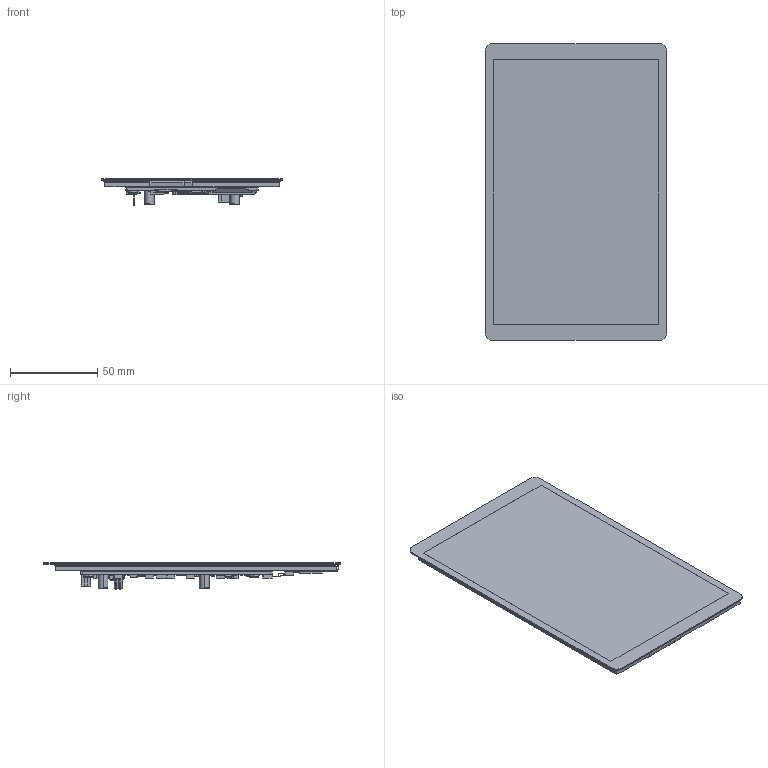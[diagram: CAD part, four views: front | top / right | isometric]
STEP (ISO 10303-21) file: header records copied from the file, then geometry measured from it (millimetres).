
FILE_DESCRIPTION((''),'2;1');
FILE_NAME('7INCH-DSI-LCD-E_ASM','2025-04-28T10:01:42',('xiaojisheng'),(''),'CREO PARAMETRIC BY PTC INC, 2021063','CREO PARAMETRIC BY PTC INC, 2021063','');
FILE_SCHEMA(('CONFIG_CONTROL_DESIGN','SHAPE_APPEARANCE_LAYERS_GROUPS'));
Products named in the file (12): 7INCH-070II18811771A-800X1280; TP_TV070HDM-TL0-39P0; TV070HDM-TL0-39P0_ASM; TYPE-C_USB-9X3X6_5; 101INCH-DSI-PCBA-20220510; SWITCH-SMT-TDA04; SMTSO-M2_5-8ET; SMTSO-M3-1_5ET; 8_10INCH-DSI_PCBA-0428_ASM; EVA; FPC; 7INCH-DSI-LCD-E_ASM
Assembly tree (17 placements, depth 3):
  7INCH-DSI-LCD-E_ASM
    TV070HDM-TL0-39P0_ASM
      7INCH-070II18811771A-800X1280
      TP_TV070HDM-TL0-39P0
    8_10INCH-DSI_PCBA-0428_ASM
      TYPE-C_USB-9X3X6_5
      101INCH-DSI-PCBA-20220510
      SWITCH-SMT-TDA04
      SMTSO-M2_5-8ET  x4
      SMTSO-M3-1_5ET  x4
    EVA
    FPC
Bounding box: 104.2 x 170.18 x 15.3 mm (x, y, z)
Volume: 81203.2 mm3; surface area: 97879.7 mm2
Topology: 25 solids, 25 shells, 4066 faces, 11693 edges, 7662 vertices
Faces by surface type: plane 3185, cylinder 671, cone 98, bspline 76, extrusion 36
Entity records: 162904 total; most frequent: CARTESIAN_POINT 32486, ORIENTED_EDGE 22130, DIRECTION 19189, EDGE_CURVE 11065, VECTOR 9703, LINE 9667, VERTEX_POINT 7272, PRESENTATION_STYLE_ASSIGNMENT 5691
